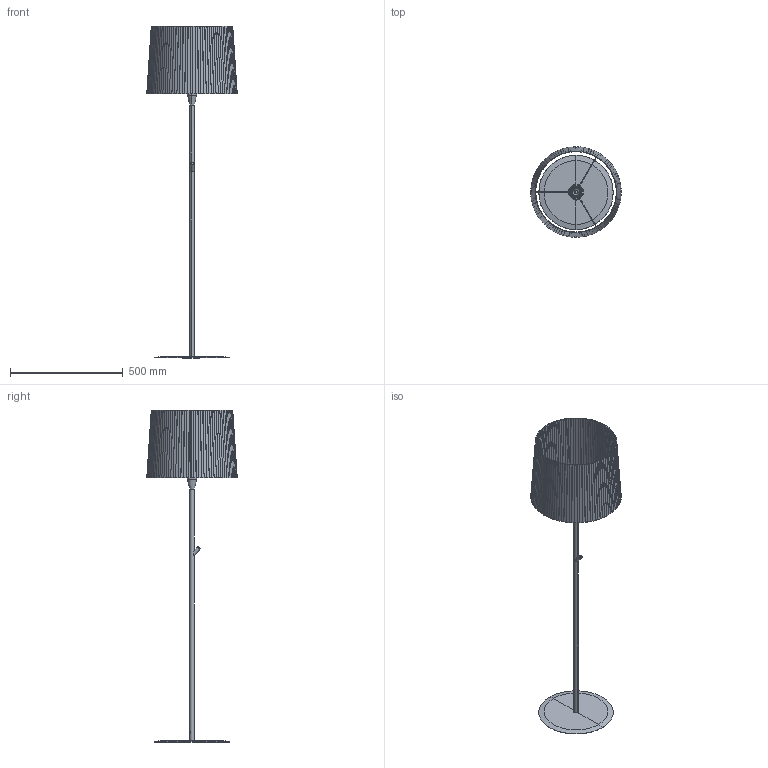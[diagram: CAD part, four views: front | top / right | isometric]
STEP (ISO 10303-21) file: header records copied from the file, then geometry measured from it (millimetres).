
FILE_DESCRIPTION(/* description */ (''),/* implementation_level */ '2;1');
FILE_NAME(/* name */ 'C:\Users\Franco Sartori E\Documents\FARO\DUPLICADO\Modelos\01_Digitalizados\2021\0_MAMBO_SAMBA_CONGA\03_Publicación\64312-42.stp',/* time_stamp */ '2021-02-09T10:20:40+01:00',/* author */ ('Franco Sartori E'),/* organization */ (''),/* preprocessor_version */ 'ST-DEVELOPER v18.1',/* originating_system */ 'AutoCAD Mechanical',/* authorisation */ '');
FILE_SCHEMA (('AUTOMOTIVE_DESIGN { 1 0 10303 214 3 1 1 }'));
Length unit declared in the file: millimetre
Products named in the file (5): Product; 64312_64313_STR - STR-675684-Export; MAMBO - SH-678393-Export; SAMBA - SH-678394-Export; CONGA - SH-681100-Export
Assembly tree (4 placements, depth 2):
  Product
    64312_64313_STR - STR-675684-Export
    MAMBO - SH-678393-Export
    SAMBA - SH-678394-Export
    CONGA - SH-681100-Export
Bounding box: 400.95 x 400.93 x 1470.79 mm (x, y, z)
Volume: 1789045.7 mm3; surface area: 1207006.3 mm2
Topology: 113 solids, 113 shells, 954 faces, 2104 edges, 1370 vertices
Faces by surface type: plane 882, cylinder 44, torus 12, cone 12, bspline 4
Entity records: 26257 total; most frequent: CARTESIAN_POINT 5139, ORIENTED_EDGE 4208, DIRECTION 4070, EDGE_CURVE 2104, LINE 1976, VECTOR 1976, VERTEX_POINT 1370, AXIS2_PLACEMENT_3D 1047
